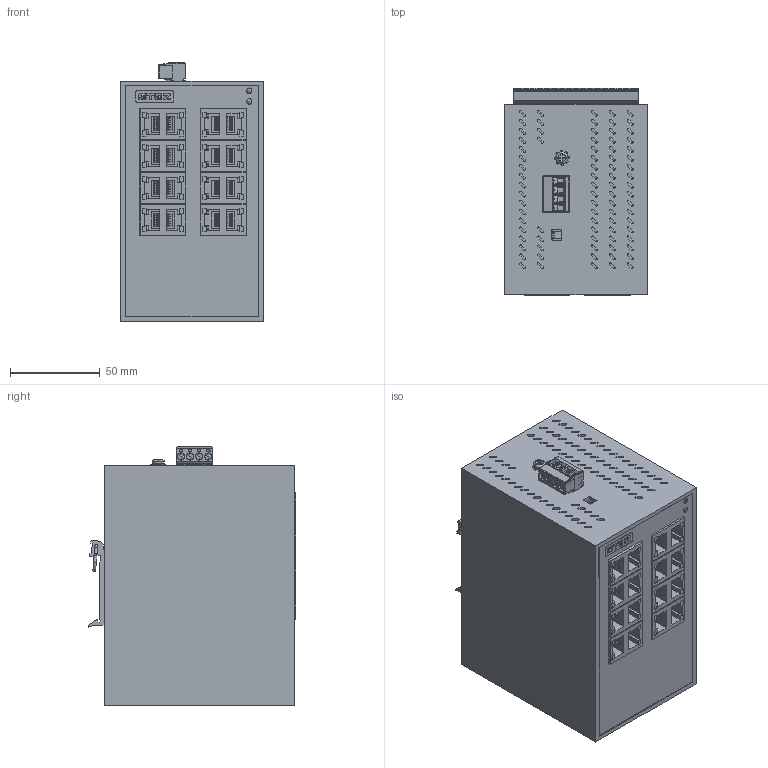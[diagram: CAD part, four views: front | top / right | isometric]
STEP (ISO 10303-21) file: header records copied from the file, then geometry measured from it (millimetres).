
FILE_DESCRIPTION(('TFLEX Exchange Step'),'2;1');
FILE_NAME('70310016_STEZ1016.stp', '2025-08-26T14:20:48+03:00',('YLedovskikh'),('Unknown organisation'),'TFLEX Exchange 2023.2','T-FLEX CAD','Unknown authorisation');
FILE_SCHEMA( ('AUTOMOTIVE_DESIGN { 1 0 10303 214 1 1 1 1 }') );
Length unit declared in the file: millimetre
Products named in the file (1): Тело_39:1
Bounding box: 79.6 x 116 x 144.3 mm (x, y, z)
Volume: 1121769.8 mm3; surface area: 119799.4 mm2
Topology: 3 solids, 17 shells, 3180 faces, 8756 edges, 5874 vertices
Faces by surface type: plane 2089, cylinder 877, bspline 160, extrusion 17, cone 16, torus 13, sphere 8
Full cylindrical faces by diameter (mm): 1.02 x32, 1.5 x3, 2.5 x1, 3 x6, 3.25 x16, 3.821 x4, 4 x5, 4.4 x1, 6.8 x1
Entity records: 104837 total; most frequent: CARTESIAN_POINT 21371, ORIENTED_EDGE 17492, DIRECTION 16306, EDGE_CURVE 8746, VECTOR 6266, LINE 6249, VERTEX_POINT 5870, AXIS2_PLACEMENT_3D 5020
